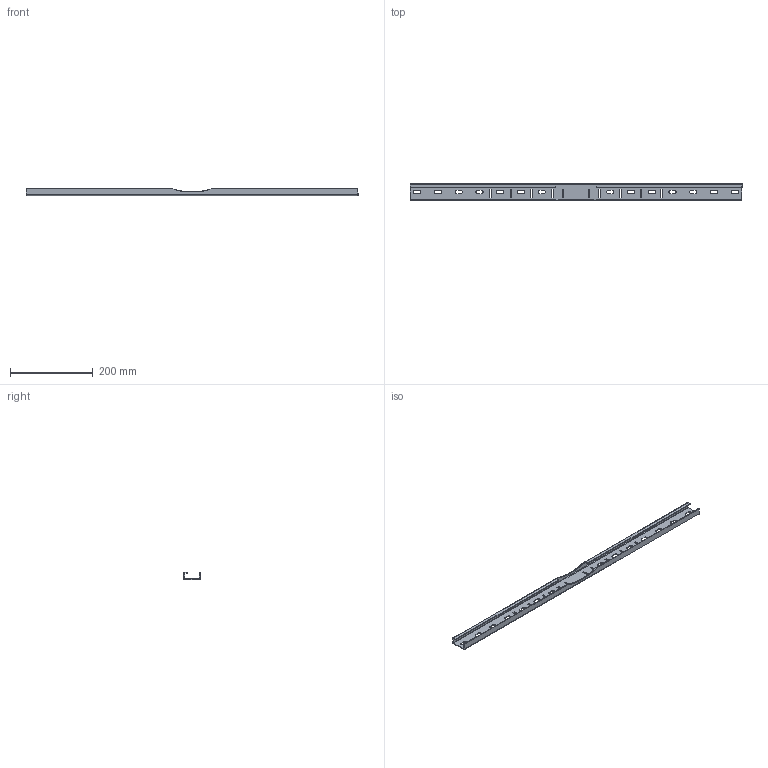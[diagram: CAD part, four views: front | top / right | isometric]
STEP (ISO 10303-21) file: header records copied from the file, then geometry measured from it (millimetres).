
FILE_DESCRIPTION (( 'STEP AP203' ), '1' );
FILE_NAME ('R5FB800.STEP', '2018-01-25T11:39:21', ( '' ), ( '' ), 'SwSTEP 2.0', 'SolidWorks 2017', '' );
FILE_SCHEMA (( 'CONFIG_CONTROL_DESIGN' ));
Length unit declared in the file: millimetre
Products named in the file (1): R5FB800
Bounding box: 800 x 40 x 17 mm (x, y, z)
Volume: 111424.4 mm3; surface area: 117232.3 mm2
Topology: 1 solids, 1 shells, 230 faces, 652 edges, 424 vertices
Faces by surface type: plane 150, cylinder 78, bspline 2
Entity records: 7795 total; most frequent: CARTESIAN_POINT 1531, ORIENTED_EDGE 1304, DIRECTION 1258, EDGE_CURVE 652, VECTOR 496, LINE 496, VERTEX_POINT 424, AXIS2_PLACEMENT_3D 381
